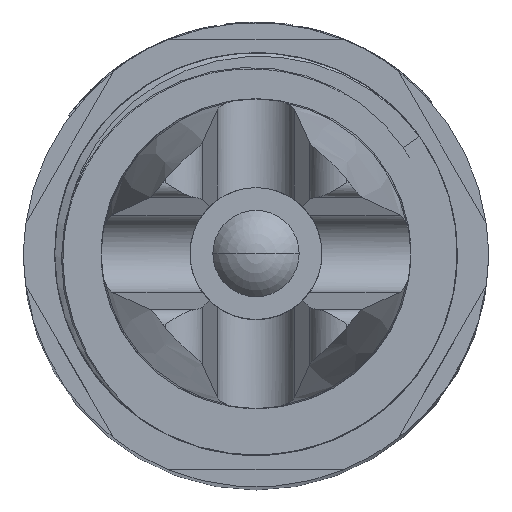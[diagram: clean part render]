
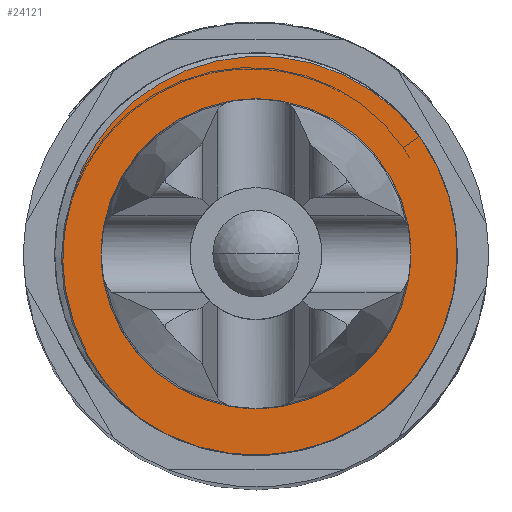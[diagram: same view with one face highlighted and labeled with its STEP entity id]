
A CAD part, top view. The second image highlights one B-rep face of the part: STEP entity #24121.
In plain terms, the highlighted planar face has unit normal (0, 0, 1) as drawn and (0, 0, -1) by its records, which use the part's own axes.
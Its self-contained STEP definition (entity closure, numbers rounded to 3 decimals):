
#22822=CARTESIAN_POINT('',(10.617,-7.502,0.));
#22823=CARTESIAN_POINT('',(10.604,-7.519,0.));
#22824=CARTESIAN_POINT('',(10.577,-7.554,0.));
#22825=CARTESIAN_POINT('',(10.55,-7.588,0.));
#22826=CARTESIAN_POINT('',(10.536,-7.605,0.));
#22828=CARTESIAN_POINT('',(-9.453,8.648,0.));
#22829=CARTESIAN_POINT('',(-9.244,8.911,0.));
#22830=CARTESIAN_POINT('',(-8.823,9.4,0.));
#22831=CARTESIAN_POINT('',(-8.202,10.025,0.));
#22832=CARTESIAN_POINT('',(-7.792,10.387,0.));
#22833=CARTESIAN_POINT('',(-7.589,10.555,0.));
#22835=CARTESIAN_POINT('',(-11.904,-3.688,0.));
#22836=CARTESIAN_POINT('',(-11.911,-3.664,0.));
#22837=CARTESIAN_POINT('',(-11.925,-3.612,0.));
#22838=CARTESIAN_POINT('',(-11.95,-3.527,0.));
#22839=CARTESIAN_POINT('',(-11.975,-3.434,0.));
#22840=CARTESIAN_POINT('',(-12.002,-3.336,0.));
#22841=CARTESIAN_POINT('',(-12.029,-3.233,0.));
#22842=CARTESIAN_POINT('',(-12.056,-3.127,0.));
#22843=CARTESIAN_POINT('',(-12.083,-3.018,0.));
#22844=CARTESIAN_POINT('',(-12.109,-2.908,0.));
#22845=CARTESIAN_POINT('',(-12.135,-2.799,0.));
#22846=CARTESIAN_POINT('',(-12.159,-2.69,0.));
#22847=CARTESIAN_POINT('',(-12.182,-2.584,0.));
#22848=CARTESIAN_POINT('',(-12.204,-2.477,0.));
#22849=CARTESIAN_POINT('',(-12.226,-2.368,0.));
#22850=CARTESIAN_POINT('',(-12.248,-2.253,0.));
#22851=CARTESIAN_POINT('',(-12.271,-2.129,0.));
#22852=CARTESIAN_POINT('',(-12.294,-1.994,0.));
#22853=CARTESIAN_POINT('',(-12.319,-1.844,0.));
#22854=CARTESIAN_POINT('',(-12.344,-1.678,0.));
#22855=CARTESIAN_POINT('',(-12.369,-1.492,0.));
#22856=CARTESIAN_POINT('',(-12.395,-1.283,0.));
#22857=CARTESIAN_POINT('',(-12.42,-1.049,0.));
#22858=CARTESIAN_POINT('',(-12.442,-0.786,0.));
#22859=CARTESIAN_POINT('',(-12.461,-0.492,0.));
#22860=CARTESIAN_POINT('',(-12.475,-0.164,0.));
#22861=CARTESIAN_POINT('',(-12.481,0.201,0.));
#22862=CARTESIAN_POINT('',(-12.476,0.604,0.));
#22863=CARTESIAN_POINT('',(-12.455,1.048,0.));
#22864=CARTESIAN_POINT('',(-12.416,1.537,0.));
#22865=CARTESIAN_POINT('',(-12.352,2.064,0.));
#22866=CARTESIAN_POINT('',(-12.265,2.596,0.));
#22867=CARTESIAN_POINT('',(-12.161,3.099,0.));
#22868=CARTESIAN_POINT('',(-12.047,3.566,0.));
#22869=CARTESIAN_POINT('',(-11.924,3.999,0.));
#22870=CARTESIAN_POINT('',(-11.797,4.399,0.));
#22871=CARTESIAN_POINT('',(-11.666,4.769,0.));
#22872=CARTESIAN_POINT('',(-11.536,5.108,0.));
#22873=CARTESIAN_POINT('',(-11.406,5.419,0.));
#22874=CARTESIAN_POINT('',(-11.28,5.704,0.));
#22875=CARTESIAN_POINT('',(-11.157,5.963,0.));
#22876=CARTESIAN_POINT('',(-11.04,6.2,0.));
#22877=CARTESIAN_POINT('',(-10.928,6.414,0.));
#22878=CARTESIAN_POINT('',(-10.822,6.609,0.));
#22879=CARTESIAN_POINT('',(-10.723,6.785,0.));
#22880=CARTESIAN_POINT('',(-10.63,6.945,0.));
#22881=CARTESIAN_POINT('',(-10.544,7.089,0.));
#22882=CARTESIAN_POINT('',(-10.464,7.219,0.));
#22883=CARTESIAN_POINT('',(-10.391,7.336,0.));
#22884=CARTESIAN_POINT('',(-10.323,7.442,0.));
#22885=CARTESIAN_POINT('',(-10.26,7.538,0.));
#22886=CARTESIAN_POINT('',(-10.202,7.625,0.));
#22887=CARTESIAN_POINT('',(-10.148,7.704,0.));
#22888=CARTESIAN_POINT('',(-10.098,7.777,0.));
#22889=CARTESIAN_POINT('',(-10.052,7.845,0.));
#22890=CARTESIAN_POINT('',(-10.007,7.908,0.));
#22891=CARTESIAN_POINT('',(-9.965,7.968,0.));
#22892=CARTESIAN_POINT('',(-9.923,8.027,0.));
#22893=CARTESIAN_POINT('',(-9.882,8.083,0.));
#22894=CARTESIAN_POINT('',(-9.843,8.137,0.));
#22895=CARTESIAN_POINT('',(-9.805,8.189,0.));
#22896=CARTESIAN_POINT('',(-9.767,8.239,0.));
#22897=CARTESIAN_POINT('',(-9.731,8.287,0.));
#22898=CARTESIAN_POINT('',(-9.696,8.334,0.));
#22899=CARTESIAN_POINT('',(-9.662,8.379,0.));
#22900=CARTESIAN_POINT('',(-9.629,8.422,0.));
#22901=CARTESIAN_POINT('',(-9.597,8.463,0.));
#22902=CARTESIAN_POINT('',(-9.566,8.503,0.));
#22903=CARTESIAN_POINT('',(-9.536,8.542,0.));
#22904=CARTESIAN_POINT('',(-9.508,8.578,0.));
#22905=CARTESIAN_POINT('',(-9.48,8.614,0.));
#22906=CARTESIAN_POINT('',(-9.462,8.637,0.));
#22907=CARTESIAN_POINT('',(-9.453,8.648,0.));
#22909=CARTESIAN_POINT('',(10.536,-7.605,0.));
#22910=CARTESIAN_POINT('',(10.229,-8.015,0.));
#22911=CARTESIAN_POINT('',(9.569,-8.795,0.));
#22912=CARTESIAN_POINT('',(8.422,-9.862,0.));
#22913=CARTESIAN_POINT('',(7.156,-10.78,0.));
#22914=CARTESIAN_POINT('',(5.823,-11.521,0.));
#22915=CARTESIAN_POINT('',(4.426,-12.098,0.));
#22916=CARTESIAN_POINT('',(2.866,-12.535,0.));
#22917=CARTESIAN_POINT('',(1.076,-12.792,0.));
#22918=CARTESIAN_POINT('',(-1.058,-12.772,0.));
#22919=CARTESIAN_POINT('',(-3.388,-12.319,0.));
#22920=CARTESIAN_POINT('',(-5.535,-11.458,0.));
#22921=CARTESIAN_POINT('',(-7.384,-10.305,0.));
#22922=CARTESIAN_POINT('',(-8.943,-8.923,0.));
#22923=CARTESIAN_POINT('',(-10.224,-7.353,0.));
#22924=CARTESIAN_POINT('',(-11.24,-5.594,0.));
#22925=CARTESIAN_POINT('',(-11.715,-4.34,0.));
#22926=CARTESIAN_POINT('',(-11.904,-3.688,0.));
#23339=CARTESIAN_POINT('',(0.,0.,0.));
#23340=DIRECTION('',(0.,0.,-1.));
#23341=DIRECTION('',(-0.584,0.812,0.));
#23342=AXIS2_PLACEMENT_3D('',#23339,#23340,#23341);
#24066=VERTEX_POINT('',#22822);
#24067=VERTEX_POINT('',#22826);
#24068=VERTEX_POINT('',#22835);
#24069=VERTEX_POINT('',#22907);
#24070=VERTEX_POINT('',#22833);
#24104=CARTESIAN_POINT('',(0.,0.,0.));
#24105=DIRECTION('',(0.,0.,1.));
#24106=DIRECTION('',(1.,0.,0.));
#24107=AXIS2_PLACEMENT_3D('',#24104,#24105,#24106);
#24108=PLANE('',#24107);
#24110=ORIENTED_EDGE('',*,*,#24109,.F.);
#24112=ORIENTED_EDGE('',*,*,#24111,.F.);
#24114=ORIENTED_EDGE('',*,*,#24113,.F.);
#24116=ORIENTED_EDGE('',*,*,#24115,.F.);
#24118=ORIENTED_EDGE('',*,*,#24117,.F.);
#24119=EDGE_LOOP('',(#24110,#24112,#24114,#24116,#24118));
#24120=FACE_OUTER_BOUND('',#24119,.F.);
#24121=ADVANCED_FACE('',(#24120),#24108,.F.);
#22827=B_SPLINE_CURVE_WITH_KNOTS('',3,(#22822,#22823,#22824,#22825,#22826),
.UNSPECIFIED.,.F.,.F.,(4,1,4),(0.,0.5,1.),.UNSPECIFIED.);
#22834=B_SPLINE_CURVE_WITH_KNOTS('',3,(#22828,#22829,#22830,#22831,#22832,
#22833),.UNSPECIFIED.,.F.,.F.,(4,1,1,4),(0.,0.333,
0.667,1.),.UNSPECIFIED.);
#22908=B_SPLINE_CURVE_WITH_KNOTS('',3,(#22835,#22836,#22837,#22838,#22839,
#22840,#22841,#22842,#22843,#22844,#22845,#22846,#22847,#22848,#22849,#22850,
#22851,#22852,#22853,#22854,#22855,#22856,#22857,#22858,#22859,#22860,#22861,
#22862,#22863,#22864,#22865,#22866,#22867,#22868,#22869,#22870,#22871,#22872,
#22873,#22874,#22875,#22876,#22877,#22878,#22879,#22880,#22881,#22882,#22883,
#22884,#22885,#22886,#22887,#22888,#22889,#22890,#22891,#22892,#22893,#22894,
#22895,#22896,#22897,#22898,#22899,#22900,#22901,#22902,#22903,#22904,#22905,
#22906,#22907),.UNSPECIFIED.,.F.,.F.,(4,1,1,1,1,1,1,1,1,1,1,1,1,1,1,1,1,1,1,1,1,
1,1,1,1,1,1,1,1,1,1,1,1,1,1,1,1,1,1,1,1,1,1,1,1,1,1,1,1,1,1,1,1,1,1,1,1,1,1,1,1,
1,1,1,1,1,1,1,1,1,4),(0.,0.014,0.029,
0.043,0.057,0.071,0.086,0.1,
0.114,0.129,0.143,0.157,
0.171,0.186,0.2,0.214,0.229,
0.243,0.257,0.271,0.286,0.3,
0.314,0.329,0.343,0.357,
0.371,0.386,0.4,0.414,0.429,
0.443,0.457,0.471,0.486,0.5,
0.514,0.529,0.543,0.557,
0.571,0.586,0.6,0.614,0.629,
0.643,0.657,0.671,0.686,0.7,
0.714,0.729,0.743,0.757,
0.771,0.786,0.8,0.814,0.829,
0.843,0.857,0.871,0.886,0.9,
0.914,0.929,0.943,0.957,
0.971,0.986,1.),.UNSPECIFIED.);
#22927=B_SPLINE_CURVE_WITH_KNOTS('',3,(#22909,#22910,#22911,#22912,#22913,
#22914,#22915,#22916,#22917,#22918,#22919,#22920,#22921,#22922,#22923,#22924,
#22925,#22926),.UNSPECIFIED.,.F.,.F.,(4,1,1,1,1,1,1,1,1,1,1,1,1,1,1,4),(0.,
0.067,0.133,0.2,0.267,0.333,
0.4,0.467,0.533,0.6,0.667,
0.733,0.8,0.867,0.933,1.),
.UNSPECIFIED.);
#23343=CIRCLE('',#23342,13.);
#24109=EDGE_CURVE('',#24066,#24067,#22827,.T.);
#24111=EDGE_CURVE('',#24070,#24066,#23343,.T.);
#24113=EDGE_CURVE('',#24069,#24070,#22834,.T.);
#24115=EDGE_CURVE('',#24068,#24069,#22908,.T.);
#24117=EDGE_CURVE('',#24067,#24068,#22927,.T.);
